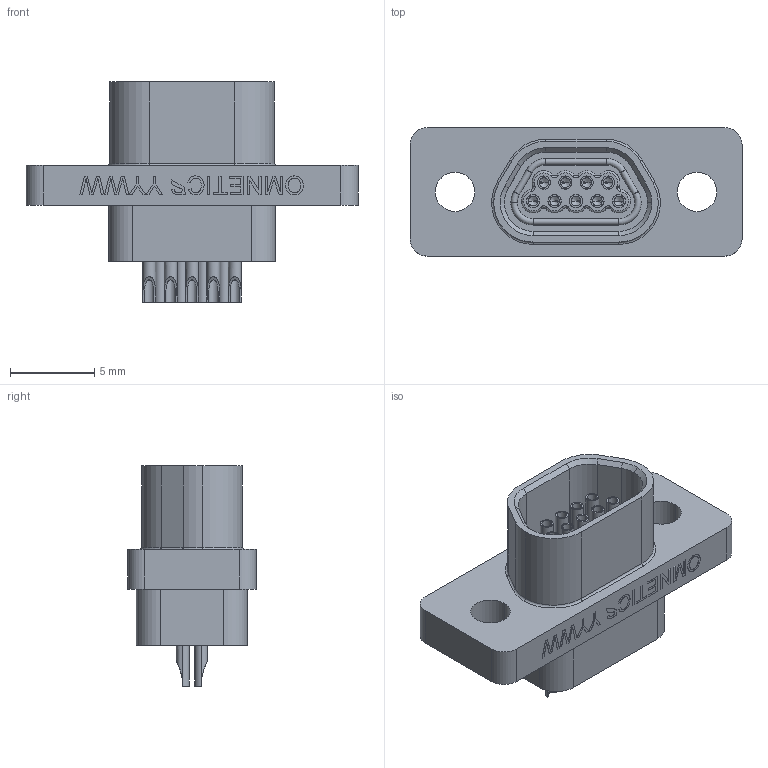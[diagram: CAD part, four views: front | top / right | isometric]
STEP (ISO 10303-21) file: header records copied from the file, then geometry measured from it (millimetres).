
FILE_DESCRIPTION (( 'STEP AP214' ), '1' );
FILE_NAME ('A99000-009 REV C.STEP', '2013-07-09T20:47:35', ( '' ), ( '' ), 'SwSTEP 2.0', 'SolidWorks 2012', '' );
FILE_SCHEMA (( 'AUTOMOTIVE_DESIGN' ));
Length unit declared in the file: inch
Products named in the file (1): A99000-009 REV B
Bounding box: 19.68 x 7.63 x 13.06 mm (x, y, z)
Volume: 636.3 mm3; surface area: 1193.5 mm2
Topology: 1 solids, 12 shells, 498 faces, 1191 edges, 735 vertices
Faces by surface type: cylinder 197, plane 195, cone 41, bspline 34, torus 31
Entity records: 16911 total; most frequent: CARTESIAN_POINT 5401, DIRECTION 2413, ORIENTED_EDGE 2310, EDGE_CURVE 1155, AXIS2_PLACEMENT_3D 881, VERTEX_POINT 735, LINE 651, VECTOR 651
